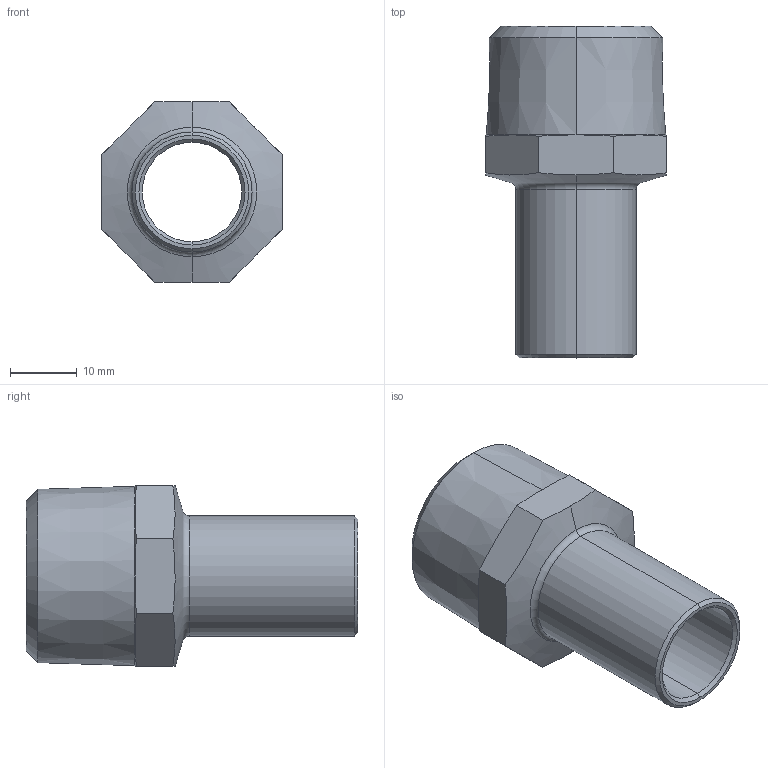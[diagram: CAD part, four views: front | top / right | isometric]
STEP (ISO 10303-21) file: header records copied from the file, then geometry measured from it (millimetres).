
FILE_DESCRIPTION (( 'STEP AP203' ), '1' );
FILE_NAME ('SP4280G Ø18 3-4.STEP', '2017-04-26T09:05:56', ( '' ), ( '' ), 'SwSTEP 2.0', 'SolidWorks 2016', '' );
FILE_SCHEMA (( 'CONFIG_CONTROL_DESIGN' ));
Length unit declared in the file: millimetre
Products named in the file (1): SP4280G Ø18 3-4
Bounding box: 27 x 49.7 x 27 mm (x, y, z)
Volume: 7791.2 mm3; surface area: 6649.5 mm2
Topology: 1 solids, 1 shells, 34 faces, 78 edges, 46 vertices
Faces by surface type: cone 16, plane 10, cylinder 6, torus 2
Entity records: 1071 total; most frequent: CARTESIAN_POINT 243, DIRECTION 156, ORIENTED_EDGE 156, EDGE_CURVE 78, AXIS2_PLACEMENT_3D 63, VERTEX_POINT 46, EDGE_LOOP 36, FACE_OUTER_BOUND 34
